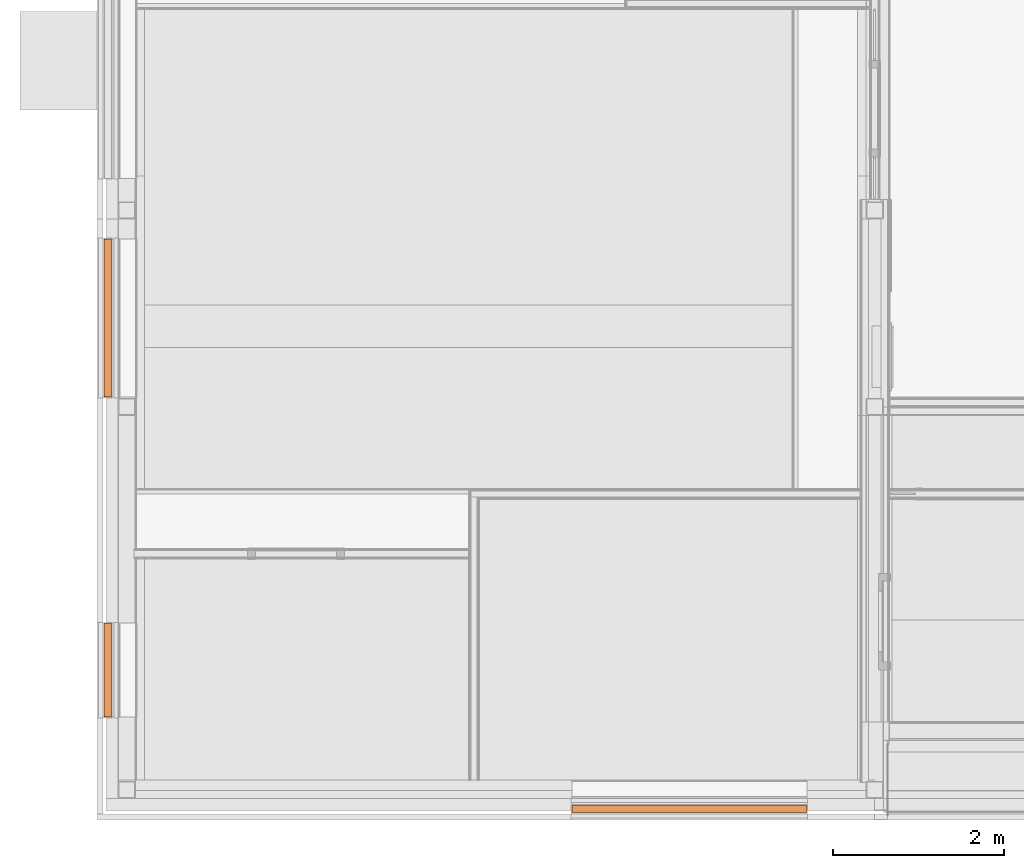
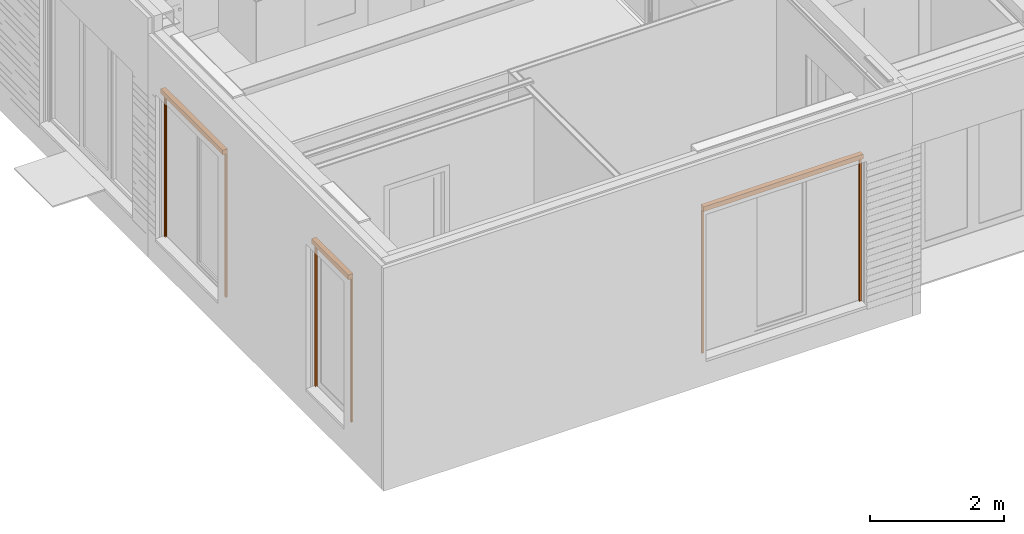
# One storey, part 144 of 165: 3 proxies.
"""IFC2X3 building model written with IfcOpenShell, lengths in millimetres."""

from ifc_helpers import new_model, entity, si_unit, converted_unit, derived_unit, money_unit, direction, frame, origin_with_axes, place, context, subcontext, project, spatial, open_shell, faceted_brep, surface_model, type_object, element, save


model = new_model("IFC2X3")

# Units and contexts
model_context = context("Model", 3, precision=0.01, world=origin_with_axes(), true_north=direction((0.0, 1.0)))
body_context = subcontext(model_context, "Body", "Model", "MODEL_VIEW")
ifc_project = project(units=[si_unit("LENGTHUNIT", "METRE", prefix="MILLI"), si_unit("AREAUNIT", "SQUARE_METRE"), si_unit("VOLUMEUNIT", "CUBIC_METRE"), converted_unit("PLANEANGLEUNIT", "DEGREE", entity("IfcPlaneAngleMeasure", 0.0174532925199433), si_unit("PLANEANGLEUNIT", "RADIAN"), dimensions=[0, 0, 0, 0, 0, 0, 0]), money_unit("EUR"), converted_unit("TIMEUNIT", "Year", entity("IfcTimeMeasure", 31556926.0), si_unit("TIMEUNIT", "SECOND"), dimensions=[0, 0, 1, 0, 0, 0, 0]), si_unit("MASSUNIT", "GRAM", prefix="KILO"), si_unit("THERMODYNAMICTEMPERATUREUNIT", "DEGREE_CELSIUS"), si_unit("LUMINOUSINTENSITYUNIT", "LUMEN"), si_unit("ENERGYUNIT", "JOULE", prefix="MEGA"), derived_unit("THERMALCONDUCTANCEUNIT", [(si_unit("POWERUNIT", "WATT"), 1), (si_unit("LENGTHUNIT", "METRE"), -1), (si_unit("THERMODYNAMICTEMPERATUREUNIT", "KELVIN"), -1)]), derived_unit("SPECIFICHEATCAPACITYUNIT", [(si_unit("ENERGYUNIT", "JOULE"), 1), (si_unit("MASSUNIT", "GRAM", prefix="KILO"), -1), (si_unit("THERMODYNAMICTEMPERATUREUNIT", "KELVIN"), -1)]), derived_unit("MASSDENSITYUNIT", [(si_unit("MASSUNIT", "GRAM", prefix="KILO"), 1), (si_unit("VOLUMEUNIT", "CUBIC_METRE"), -1)])], contexts=[model_context])

# Site, building, storey
site_placement = place(None, origin_with_axes())
site = spatial("IfcSite", under=ifc_project, at=site_placement, Name="Site", CompositionType="ELEMENT")
building_placement = place(site_placement, origin_with_axes())
building = spatial("IfcBuilding", under=site, at=building_placement, Name="Naam gebouw", CompositionType="ELEMENT")
storey_placement = place(building_placement, origin_with_axes())
storey = spatial("IfcBuildingStorey", under=building, at=storey_placement, Name="Begane grond", CompositionType="ELEMENT", Elevation=0.0)

# Proxies
building_element_proxy_type = type_object("IfcBuildingElementProxyType", Name="Screen 26 KM", PredefinedType="NOTDEFINED")
proxy_1_placement = place(storey_placement, frame((-82.000000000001, 2049.995712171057, -8.0), z_axis=(0.0, 0.0, 1.0), x_axis=(0.0, -1.0, 0.0)))
element("IfcBuildingElementProxy", 1, at=proxy_1_placement, inside=storey, type_object=building_element_proxy_type, Name="_Object-x", context=body_context, shape_type="SurfaceModel", body=[
    faceted_brep([(0.0, 0.0, 0.0), (0.0, -30.0, 0.0), (0.0, -30.0, 2615.0), (0.0, 0.0, 2615.0), (40.0, 0.0, 0.0), (40.0, -4.999999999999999, 0.0), (37.0, -4.999999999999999, 0.0), (37.0, -3.0, 0.0), (3.0, -3.0, 0.0), (3.0, -27.0, 0.0), (37.0, -27.0, 0.0), (37.0, -25.0, 0.0), (40.0, -25.0, 0.0), (40.0, -30.0, 0.0), (40.0, -30.0, 2615.0), (40.0, -25.0, 2615.0), (37.0, -25.0, 2615.0), (37.0, -27.0, 2615.0), (3.0, -27.0, 2615.0), (3.0, -3.0, 2615.0), (37.0, -3.0, 2615.0), (37.0, -4.999999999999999, 2615.0), (40.0, -4.999999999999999, 2615.0), (40.0, 0.0, 2615.0)], [[[0, 1, 2, 3]], [[0, 4, 5, 6, 7, 8, 9, 10, 11, 12, 13, 1]], [[1, 13, 14, 2]], [[3, 2, 14, 15, 16, 17, 18, 19, 20, 21, 22, 23]], [[4, 0, 3, 23]], [[5, 4, 23, 22]], [[6, 5, 22, 21]], [[7, 6, 21, 20]], [[8, 7, 20, 19]], [[9, 8, 19, 18]], [[10, 9, 18, 17]], [[11, 10, 17, 16]], [[12, 11, 16, 15]], [[13, 12, 15, 14]]]),
    faceted_brep([(1100.0, 0.0, 0.0), (1100.0, 0.0, 2615.0), (1100.0, -30.0, 2615.0), (1100.0, -30.0, 0.0), (1060.0, 0.0, 0.0), (1060.0, 0.0, 2615.0), (1060.0, -4.999999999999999, 2615.0), (1063.0, -4.999999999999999, 2615.0), (1063.0, -3.0, 2615.0), (1097.0, -3.0, 2615.0), (1097.0, -27.0, 2615.0), (1063.0, -27.0, 2615.0), (1063.0, -25.0, 2615.0), (1060.0, -25.0, 2615.0), (1060.0, -30.0, 2615.0), (1060.0, -30.0, 0.0), (1060.0, -25.0, 0.0), (1063.0, -25.0, 0.0), (1063.0, -27.0, 0.0), (1097.0, -27.0, 0.0), (1097.0, -3.0, 0.0), (1063.0, -3.0, 0.0), (1063.0, -4.999999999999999, 0.0), (1060.0, -4.999999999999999, 0.0)], [[[0, 1, 2, 3]], [[4, 5, 1, 0]], [[1, 5, 6, 7, 8, 9, 10, 11, 12, 13, 14, 2]], [[3, 2, 14, 15]], [[0, 3, 15, 16, 17, 18, 19, 20, 21, 22, 23, 4]], [[23, 6, 5, 4]], [[22, 7, 6, 23]], [[21, 8, 7, 22]], [[20, 9, 8, 21]], [[19, 10, 9, 20]], [[18, 11, 10, 19]], [[17, 12, 11, 18]], [[16, 13, 12, 17]], [[15, 14, 13, 16]]]),
    surface_model("IfcShellBasedSurfaceModel", [(0.0, 0.0, 2700.0), (0.0, 0.0, 2615.0), (0.0, -85.0, 2615.0), (0.0, -85.0, 2700.0)], [open_shell([[[0, 1, 2, 3]]])]),
    surface_model("IfcShellBasedSurfaceModel", [(0.01, 0.0, 2700.0), (0.009999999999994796, -85.0, 2700.0), (1099.99, -85.00000000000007, 2700.0), (1099.99, 0.0, 2700.0), (0.01000000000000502, 0.0, 2618.0), (0.01000000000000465, -6.0, 2618.0), (0.01000000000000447, -6.0, 2621.0), (0.01000000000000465, -3.0, 2621.0), (0.01, -3.0, 2697.0), (0.009999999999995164, -82.0, 2697.0), (0.01, -82.0, 2618.0), (0.01000000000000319, -30.0, 2618.0), (0.01000000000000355, -30.0, 2612.0), (0.01000000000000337, -33.0, 2612.0), (0.01000000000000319, -33.0, 2615.0), (0.01, -85.0, 2615.0), (1099.99, -85.00000000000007, 2615.0), (1099.99, -33.00000000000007, 2615.0), (1099.99, -33.00000000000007, 2612.0), (1099.99, -30.00000000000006, 2612.0), (1099.99, -30.00000000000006, 2618.0), (1099.99, -82.00000000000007, 2618.0), (1099.99, -82.00000000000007, 2697.0), (1099.99, -3.000000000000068, 2697.0), (1099.99, -3.000000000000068, 2621.0), (1099.99, -6.000000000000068, 2621.0), (1099.99, -6.000000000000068, 2618.0), (1099.99, 0.0, 2618.0)], [open_shell([[[0, 1, 2, 3]], [[0, 4, 5, 6, 7, 8, 9, 10, 11, 12, 13, 14, 15, 1]], [[1, 15, 16, 2]], [[3, 2, 16, 17, 18, 19, 20, 21, 22, 23, 24, 25, 26, 27]], [[4, 0, 3, 27]], [[13, 12, 19, 18]], [[14, 13, 18, 17]], [[15, 14, 17, 16]]])]),
    surface_model("IfcShellBasedSurfaceModel", [(1099.99, 0.0, 2700.0), (1099.99, 0.0, 2615.0), (1099.99, -85.00000000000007, 2615.0), (1099.99, -85.00000000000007, 2700.0)], [open_shell([[[0, 1, 2, 3]]])]),
])
proxy_2_placement = place(storey_placement, frame((5305.999999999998, -82.00000000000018, -8.0), z_axis=(0.0, 0.0, 1.0), x_axis=(1.0, 0.0, 0.0)))
element("IfcBuildingElementProxy", 2, at=proxy_2_placement, inside=storey, type_object=building_element_proxy_type, Name="_Object-x", context=body_context, shape_type="SurfaceModel", body=[
    faceted_brep([(0.0, 0.0, 0.0), (0.0, -30.0, 0.0), (0.0, -30.0, 2615.0), (0.0, 0.0, 2615.0), (40.0, 0.0, 0.0), (40.0, -4.999999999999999, 0.0), (37.0, -4.999999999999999, 0.0), (37.0, -3.0, 0.0), (3.0, -3.0, 0.0), (3.0, -27.0, 0.0), (37.0, -27.0, 0.0), (37.0, -25.0, 0.0), (40.0, -25.0, 0.0), (40.0, -30.0, 0.0), (40.0, -30.0, 2615.0), (40.0, -25.0, 2615.0), (37.0, -25.0, 2615.0), (37.0, -27.0, 2615.0), (3.0, -27.0, 2615.0), (3.0, -3.0, 2615.0), (37.0, -3.0, 2615.0), (37.0, -4.999999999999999, 2615.0), (40.0, -4.999999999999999, 2615.0), (40.0, 0.0, 2615.0)], [[[0, 1, 2, 3]], [[0, 4, 5, 6, 7, 8, 9, 10, 11, 12, 13, 1]], [[1, 13, 14, 2]], [[3, 2, 14, 15, 16, 17, 18, 19, 20, 21, 22, 23]], [[4, 0, 3, 23]], [[5, 4, 23, 22]], [[6, 5, 22, 21]], [[7, 6, 21, 20]], [[8, 7, 20, 19]], [[9, 8, 19, 18]], [[10, 9, 18, 17]], [[11, 10, 17, 16]], [[12, 11, 16, 15]], [[13, 12, 15, 14]]]),
    faceted_brep([(2749.999999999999, 0.0, 0.0), (2749.999999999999, 0.0, 2615.0), (2749.999999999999, -30.0, 2615.0), (2749.999999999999, -30.0, 0.0), (2709.999999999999, 0.0, 0.0), (2709.999999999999, 0.0, 2615.0), (2709.999999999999, -4.999999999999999, 2615.0), (2712.999999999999, -4.999999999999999, 2615.0), (2712.999999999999, -3.0, 2615.0), (2746.999999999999, -3.0, 2615.0), (2746.999999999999, -27.0, 2615.0), (2712.999999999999, -27.0, 2615.0), (2712.999999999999, -25.0, 2615.0), (2709.999999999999, -25.0, 2615.0), (2709.999999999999, -30.0, 2615.0), (2709.999999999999, -30.0, 0.0), (2709.999999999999, -25.0, 0.0), (2712.999999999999, -25.0, 0.0), (2712.999999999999, -27.0, 0.0), (2746.999999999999, -27.0, 0.0), (2746.999999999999, -3.0, 0.0), (2712.999999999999, -3.0, 0.0), (2712.999999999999, -4.999999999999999, 0.0), (2709.999999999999, -4.999999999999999, 0.0)], [[[0, 1, 2, 3]], [[4, 5, 1, 0]], [[1, 5, 6, 7, 8, 9, 10, 11, 12, 13, 14, 2]], [[3, 2, 14, 15]], [[0, 3, 15, 16, 17, 18, 19, 20, 21, 22, 23, 4]], [[23, 6, 5, 4]], [[22, 7, 6, 23]], [[21, 8, 7, 22]], [[20, 9, 8, 21]], [[19, 10, 9, 20]], [[18, 11, 10, 19]], [[17, 12, 11, 18]], [[16, 13, 12, 17]], [[15, 14, 13, 16]]]),
    surface_model("IfcShellBasedSurfaceModel", [(0.0, 0.0, 2700.0), (0.0, 0.0, 2615.0), (0.0, -85.0, 2615.0), (0.0, -85.0, 2700.0)], [open_shell([[[0, 1, 2, 3]]])]),
    surface_model("IfcShellBasedSurfaceModel", [(0.01, 0.0, 2700.0), (0.009999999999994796, -85.0, 2700.0), (2749.989999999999, -85.00000000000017, 2700.0), (2749.989999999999, 0.0, 2700.0), (0.01000000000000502, 0.0, 2618.0), (0.01000000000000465, -6.0, 2618.0), (0.01000000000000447, -6.0, 2621.0), (0.01000000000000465, -3.0, 2621.0), (0.01, -3.0, 2697.0), (0.009999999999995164, -82.0, 2697.0), (0.01, -82.0, 2618.0), (0.01000000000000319, -30.0, 2618.0), (0.01000000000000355, -30.0, 2612.0), (0.01000000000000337, -33.0, 2612.0), (0.01000000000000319, -33.0, 2615.0), (0.01, -85.0, 2615.0), (2749.989999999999, -85.00000000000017, 2615.0), (2749.989999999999, -33.00000000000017, 2615.0), (2749.989999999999, -33.00000000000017, 2612.0), (2749.989999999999, -30.00000000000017, 2612.0), (2749.989999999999, -30.00000000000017, 2618.0), (2749.989999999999, -82.00000000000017, 2618.0), (2749.989999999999, -82.00000000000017, 2697.0), (2749.989999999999, -3.000000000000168, 2697.0), (2749.989999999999, -3.000000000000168, 2621.0), (2749.989999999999, -6.000000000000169, 2621.0), (2749.989999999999, -6.000000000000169, 2618.0), (2749.989999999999, 0.0, 2618.0)], [open_shell([[[0, 1, 2, 3]], [[0, 4, 5, 6, 7, 8, 9, 10, 11, 12, 13, 14, 15, 1]], [[1, 15, 16, 2]], [[3, 2, 16, 17, 18, 19, 20, 21, 22, 23, 24, 25, 26, 27]], [[4, 0, 3, 27]], [[13, 12, 19, 18]], [[14, 13, 18, 17]], [[15, 14, 17, 16]]])]),
    surface_model("IfcShellBasedSurfaceModel", [(2749.989999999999, 0.0, 2700.0), (2749.989999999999, 0.0, 2615.0), (2749.989999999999, -85.00000000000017, 2615.0), (2749.989999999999, -85.00000000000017, 2700.0)], [open_shell([[[0, 1, 2, 3]]])]),
])
proxy_3_placement = place(storey_placement, frame((-82.00000000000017, 6544.999999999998, -8.0), z_axis=(0.0, 0.0, 1.0), x_axis=(0.0, -1.0, 0.0)))
element("IfcBuildingElementProxy", 3, at=proxy_3_placement, inside=storey, type_object=building_element_proxy_type, Name="_Object-x", context=body_context, shape_type="SurfaceModel", body=[
    faceted_brep([(0.0, 0.0, 0.0), (0.0, -30.0, 0.0), (0.0, -30.0, 2615.0), (0.0, 0.0, 2615.0), (40.0, 0.0, 0.0), (40.0, -4.999999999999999, 0.0), (37.0, -4.999999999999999, 0.0), (37.0, -3.0, 0.0), (3.0, -3.0, 0.0), (3.0, -27.0, 0.0), (37.0, -27.0, 0.0), (37.0, -25.0, 0.0), (40.0, -25.0, 0.0), (40.0, -30.0, 0.0), (40.0, -30.0, 2615.0), (40.0, -25.0, 2615.0), (37.0, -25.0, 2615.0), (37.0, -27.0, 2615.0), (3.0, -27.0, 2615.0), (3.0, -3.0, 2615.0), (37.0, -3.0, 2615.0), (37.0, -4.999999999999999, 2615.0), (40.0, -4.999999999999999, 2615.0), (40.0, 0.0, 2615.0)], [[[0, 1, 2, 3]], [[0, 4, 5, 6, 7, 8, 9, 10, 11, 12, 13, 1]], [[1, 13, 14, 2]], [[3, 2, 14, 15, 16, 17, 18, 19, 20, 21, 22, 23]], [[4, 0, 3, 23]], [[5, 4, 23, 22]], [[6, 5, 22, 21]], [[7, 6, 21, 20]], [[8, 7, 20, 19]], [[9, 8, 19, 18]], [[10, 9, 18, 17]], [[11, 10, 17, 16]], [[12, 11, 16, 15]], [[13, 12, 15, 14]]]),
    faceted_brep([(1850.0, 0.0, 0.0), (1850.0, 0.0, 2615.0), (1850.0, -30.0, 2615.0), (1850.0, -30.0, 0.0), (1810.0, 0.0, 0.0), (1810.0, 0.0, 2615.0), (1810.0, -4.999999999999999, 2615.0), (1813.0, -4.999999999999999, 2615.0), (1813.0, -3.0, 2615.0), (1847.0, -3.0, 2615.0), (1847.0, -27.0, 2615.0), (1813.0, -27.0, 2615.0), (1813.0, -25.0, 2615.0), (1810.0, -25.0, 2615.0), (1810.0, -30.0, 2615.0), (1810.0, -30.0, 0.0), (1810.0, -25.0, 0.0), (1813.0, -25.0, 0.0), (1813.0, -27.0, 0.0), (1847.0, -27.0, 0.0), (1847.0, -3.0, 0.0), (1813.0, -3.0, 0.0), (1813.0, -4.999999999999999, 0.0), (1810.0, -4.999999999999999, 0.0)], [[[0, 1, 2, 3]], [[4, 5, 1, 0]], [[1, 5, 6, 7, 8, 9, 10, 11, 12, 13, 14, 2]], [[3, 2, 14, 15]], [[0, 3, 15, 16, 17, 18, 19, 20, 21, 22, 23, 4]], [[23, 6, 5, 4]], [[22, 7, 6, 23]], [[21, 8, 7, 22]], [[20, 9, 8, 21]], [[19, 10, 9, 20]], [[18, 11, 10, 19]], [[17, 12, 11, 18]], [[16, 13, 12, 17]], [[15, 14, 13, 16]]]),
    surface_model("IfcShellBasedSurfaceModel", [(0.0, 0.0, 2700.0), (0.0, 0.0, 2615.0), (0.0, -85.0, 2615.0), (0.0, -85.0, 2700.0)], [open_shell([[[0, 1, 2, 3]]])]),
    surface_model("IfcShellBasedSurfaceModel", [(0.01, 0.0, 2700.0), (0.009999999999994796, -85.0, 2700.0), (1849.99, -85.00000000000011, 2700.0), (1849.99, 0.0, 2700.0), (0.01000000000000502, 0.0, 2618.0), (0.01000000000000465, -6.0, 2618.0), (0.01000000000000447, -6.0, 2621.0), (0.01000000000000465, -3.0, 2621.0), (0.01, -3.0, 2697.0), (0.009999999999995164, -82.0, 2697.0), (0.01, -82.0, 2618.0), (0.01000000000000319, -30.0, 2618.0), (0.01000000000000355, -30.0, 2612.0), (0.01000000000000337, -33.0, 2612.0), (0.01000000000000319, -33.0, 2615.0), (0.01, -85.0, 2615.0), (1849.99, -85.00000000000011, 2615.0), (1849.99, -33.00000000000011, 2615.0), (1849.99, -33.00000000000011, 2612.0), (1849.99, -30.00000000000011, 2612.0), (1849.99, -30.00000000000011, 2618.0), (1849.99, -82.00000000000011, 2618.0), (1849.99, -82.00000000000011, 2697.0), (1849.99, -3.000000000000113, 2697.0), (1849.99, -3.000000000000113, 2621.0), (1849.99, -6.000000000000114, 2621.0), (1849.99, -6.000000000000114, 2618.0), (1849.99, 0.0, 2618.0)], [open_shell([[[0, 1, 2, 3]], [[0, 4, 5, 6, 7, 8, 9, 10, 11, 12, 13, 14, 15, 1]], [[1, 15, 16, 2]], [[3, 2, 16, 17, 18, 19, 20, 21, 22, 23, 24, 25, 26, 27]], [[4, 0, 3, 27]], [[13, 12, 19, 18]], [[14, 13, 18, 17]], [[15, 14, 17, 16]]])]),
    surface_model("IfcShellBasedSurfaceModel", [(1849.99, 0.0, 2700.0), (1849.99, 0.0, 2615.0), (1849.99, -85.00000000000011, 2615.0), (1849.99, -85.00000000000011, 2700.0)], [open_shell([[[0, 1, 2, 3]]])]),
])

save(model, "model.ifc")
